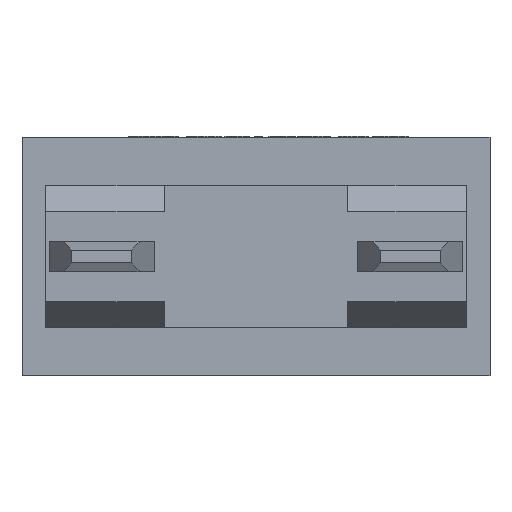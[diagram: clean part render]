
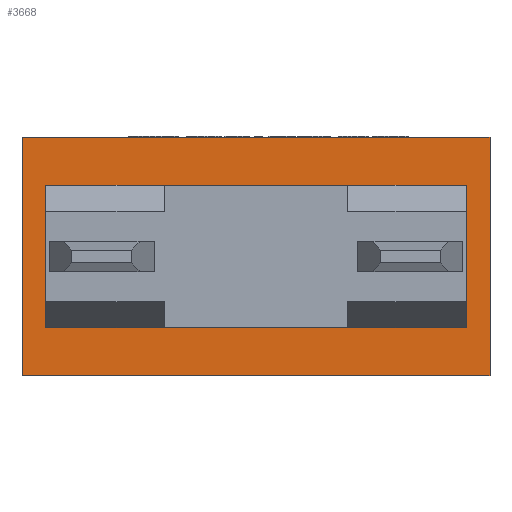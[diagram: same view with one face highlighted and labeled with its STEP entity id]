
A CAD part, front view. The second image highlights one B-rep face of the part: STEP entity #3668.
In plain terms, the highlighted planar face has unit normal (0, -1, 0).
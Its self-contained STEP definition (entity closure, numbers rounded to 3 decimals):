
#30=FACE_BOUND('',#497,.T.);
#287=FACE_OUTER_BOUND('',#496,.T.);
#496=EDGE_LOOP('',(#3304,#3305,#3306,#3307));
#497=EDGE_LOOP('',(#3308,#3309,#3310,#3311));
#879=LINE('',#6311,#1267);
#903=LINE('',#6360,#1291);
#921=LINE('',#6394,#1309);
#1015=LINE('',#6588,#1403);
#1018=LINE('',#6594,#1406);
#1020=LINE('',#6597,#1408);
#1021=LINE('',#6599,#1409);
#1022=LINE('',#6601,#1410);
#1267=VECTOR('',#4200,10.);
#1291=VECTOR('',#4232,10.);
#1309=VECTOR('',#4268,10.);
#1403=VECTOR('',#4438,10.);
#1406=VECTOR('',#4443,10.);
#1408=VECTOR('',#4447,10.);
#1409=VECTOR('',#4450,10.);
#1410=VECTOR('',#4453,10.);
#1665=VERTEX_POINT('',#6308);
#1666=VERTEX_POINT('',#6310);
#1686=VERTEX_POINT('',#6357);
#1687=VERTEX_POINT('',#6359);
#1755=VERTEX_POINT('',#6585);
#1756=VERTEX_POINT('',#6587);
#1757=VERTEX_POINT('',#6591);
#1758=VERTEX_POINT('',#6593);
#2137=EDGE_CURVE('',#1666,#1665,#879,.T.);
#2161=EDGE_CURVE('',#1686,#1687,#903,.T.);
#2179=EDGE_CURVE('',#1686,#1666,#921,.T.);
#2273=EDGE_CURVE('',#1756,#1755,#1015,.T.);
#2276=EDGE_CURVE('',#1758,#1757,#1018,.T.);
#2278=EDGE_CURVE('',#1757,#1756,#1020,.T.);
#2279=EDGE_CURVE('',#1755,#1758,#1021,.T.);
#2280=EDGE_CURVE('',#1687,#1665,#1022,.T.);
#3304=ORIENTED_EDGE('',*,*,#2179,.T.);
#3305=ORIENTED_EDGE('',*,*,#2137,.T.);
#3306=ORIENTED_EDGE('',*,*,#2280,.F.);
#3307=ORIENTED_EDGE('',*,*,#2161,.F.);
#3308=ORIENTED_EDGE('',*,*,#2276,.T.);
#3309=ORIENTED_EDGE('',*,*,#2278,.T.);
#3310=ORIENTED_EDGE('',*,*,#2273,.T.);
#3311=ORIENTED_EDGE('',*,*,#2279,.T.);
#3447=PLANE('',#3814);
#3668=ADVANCED_FACE('',(#287,#30),#3447,.T.);
#3814=AXIS2_PLACEMENT_3D('',#6600,#4451,#4452);
#4200=DIRECTION('',(-1.,0.,0.));
#4232=DIRECTION('',(-1.,0.,0.));
#4268=DIRECTION('',(0.,0.,1.));
#4438=DIRECTION('',(0.,0.,1.));
#4443=DIRECTION('',(0.,0.,-1.));
#4447=DIRECTION('',(-1.,0.,0.));
#4450=DIRECTION('',(1.,0.,0.));
#4451=DIRECTION('center_axis',(0.,-1.,0.));
#4452=DIRECTION('ref_axis',(0.,0.,
1.));
#4453=DIRECTION('',(0.,0.,1.));
#6308=CARTESIAN_POINT('',(0.,-1.,3.175));
#6310=CARTESIAN_POINT('',(12.45,-1.,3.175));
#6311=CARTESIAN_POINT('',(12.45,-1.,3.175));
#6357=CARTESIAN_POINT('',(12.45,-1.,-3.175));
#6359=CARTESIAN_POINT('',(0.,-1.,-3.175));
#6360=CARTESIAN_POINT('',(12.45,-1.,-3.175));
#6394=CARTESIAN_POINT('',(12.45,-1.,-3.175));
#6585=CARTESIAN_POINT('',(0.625,-1.,1.9));
#6587=CARTESIAN_POINT('',(0.625,-1.,-1.9));
#6588=CARTESIAN_POINT('',(0.625,-1.,-0.638));
#6591=CARTESIAN_POINT('',(11.825,-1.,-1.9));
#6593=CARTESIAN_POINT('',(11.825,-1.,1.9));
#6594=CARTESIAN_POINT('',(11.825,-1.,-2.538));
#6597=CARTESIAN_POINT('',(6.538,-1.,-1.9));
#6599=CARTESIAN_POINT('',(12.138,-1.,1.9));
#6600=CARTESIAN_POINT('Origin',(12.45,-1.,-3.175));
#6601=CARTESIAN_POINT('',(0.,-1.,-3.175));
